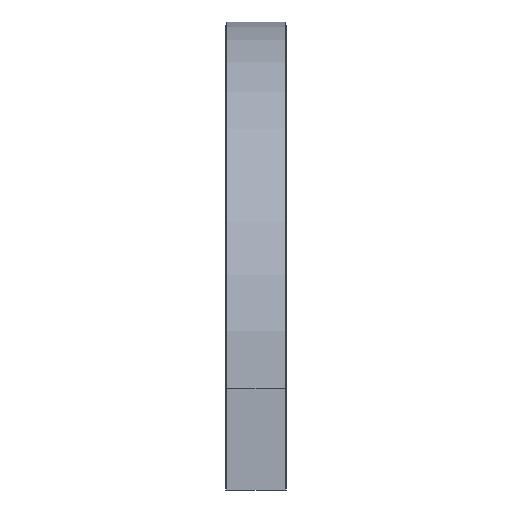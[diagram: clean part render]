
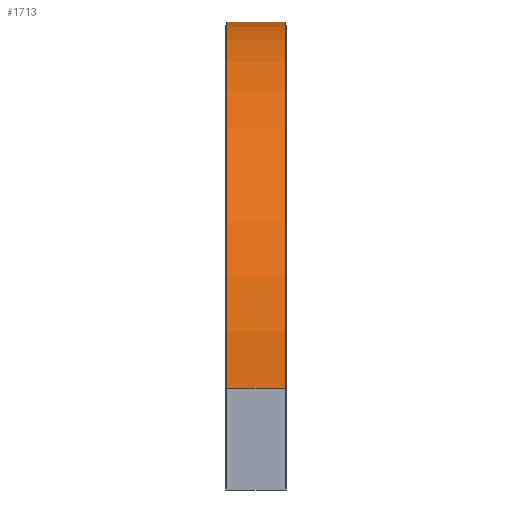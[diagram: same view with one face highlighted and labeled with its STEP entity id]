
A CAD part, front view. The second image highlights one B-rep face of the part: STEP entity #1713.
In plain terms, the highlighted cylindrical face has radius 542 mm (diameter 1084 mm), a partial arc.
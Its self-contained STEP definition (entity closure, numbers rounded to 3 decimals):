
#186 = EDGE_LOOP ( 'NONE', ( #2693, #2694, #2695, #2696 ) ) ;
#239 = CIRCLE ( 'NONE', #990, 542. ) ;
#240 = VECTOR ( 'NONE', #1962, 1000. ) ;
#244 = CIRCLE ( 'NONE', #988, 542. ) ;
#245 = LINE ( 'NONE', #1984, #240 ) ;
#511 = CARTESIAN_POINT ( 'NONE',  ( 43.15, 500., 692. ) ) ;
#537 = CARTESIAN_POINT ( 'NONE',  ( -43.15, 500., 692. ) ) ;
#593 = CARTESIAN_POINT ( 'NONE',  ( -43.15, -42., 150. ) ) ;
#601 = CARTESIAN_POINT ( 'NONE',  ( 43.15, -42., 150. ) ) ;
#814 = DIRECTION ( 'NONE',  ( 0., 0., 1. ) ) ;
#815 = CARTESIAN_POINT ( 'NONE',  ( 0., 500., 150. ) ) ;
#816 = DIRECTION ( 'NONE',  ( -1., 0., 0. ) ) ;
#988 = AXIS2_PLACEMENT_3D ( 'NONE', #1985, #1986, #1987 ) ;
#990 = AXIS2_PLACEMENT_3D ( 'NONE', #1994, #1995, #1996 ) ;
#1053 = FACE_OUTER_BOUND ( 'NONE', #186, .T. ) ;
#1054 = CYLINDRICAL_SURFACE ( 'NONE', #1649, 542. ) ;
#1306 = VERTEX_POINT ( 'NONE', #511 ) ;
#1332 = VERTEX_POINT ( 'NONE', #537 ) ;
#1388 = VERTEX_POINT ( 'NONE', #593 ) ;
#1396 = VERTEX_POINT ( 'NONE', #601 ) ;
#1649 = AXIS2_PLACEMENT_3D ( 'NONE', #815, #816, #814 ) ;
#1713 = ADVANCED_FACE ( 'NONE', ( #1053 ), #1054, .T. ) ;
#1962 = DIRECTION ( 'NONE',  ( -1., 0., 0. ) ) ;
#1984 = CARTESIAN_POINT ( 'NONE',  ( -43.15, -42., 150. ) ) ;
#1985 = CARTESIAN_POINT ( 'NONE',  ( 43.15, 500., 150. ) ) ;
#1986 = DIRECTION ( 'NONE',  ( -1., 0., 0. ) ) ;
#1987 = DIRECTION ( 'NONE',  ( 0., 0., 1. ) ) ;
#1994 = CARTESIAN_POINT ( 'NONE',  ( -43.15, 500., 150. ) ) ;
#1995 = DIRECTION ( 'NONE',  ( -1., 0., 0. ) ) ;
#1996 = DIRECTION ( 'NONE',  ( 0., 0., 1. ) ) ;
#2139 = CARTESIAN_POINT ( 'NONE',  ( -43.15, 500., 692. ) ) ;
#2140 = DIRECTION ( 'NONE',  ( -1., 0., 0. ) ) ;
#2400 = LINE ( 'NONE', #2139, #2403 ) ;
#2403 = VECTOR ( 'NONE', #2140, 1000. ) ;
#2693 = ORIENTED_EDGE ( 'NONE', *, *, #2978, .F. ) ;
#2694 = ORIENTED_EDGE ( 'NONE', *, *, #2977, .T. ) ;
#2695 = ORIENTED_EDGE ( 'NONE', *, *, #3071, .T. ) ;
#2696 = ORIENTED_EDGE ( 'NONE', *, *, #2981, .F. ) ;
#2977 = EDGE_CURVE ( 'NONE', #1396, #1306, #244, .T. ) ;
#2978 = EDGE_CURVE ( 'NONE', #1396, #1388, #245, .T. ) ;
#2981 = EDGE_CURVE ( 'NONE', #1388, #1332, #239, .T. ) ;
#3071 = EDGE_CURVE ( 'NONE', #1306, #1332, #2400, .T. ) ;
